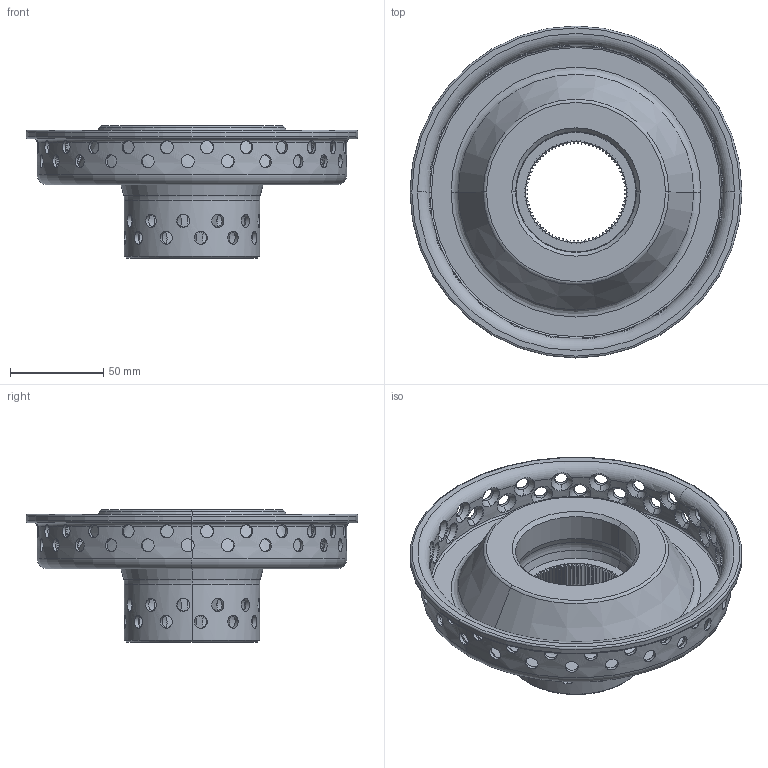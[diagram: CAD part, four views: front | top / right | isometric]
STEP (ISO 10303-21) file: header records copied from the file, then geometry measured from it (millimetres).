
FILE_DESCRIPTION (( 'STEP AP203' ), '1' );
FILE_NAME ('Maserati 3500,5000 5.5j center section splined.STEP', '2025-03-26T10:17:00', ( '' ), ( '' ), 'SwSTEP 2.0', 'SolidWorks 2019', '' );
FILE_SCHEMA (( 'CONFIG_CONTROL_DESIGN' ));
Length unit declared in the file: millimetre
Products named in the file (1): Maserati 3500,5000 5.5j center section splined
Bounding box: 178 x 178 x 71 mm (x, y, z)
Volume: 334461.3 mm3; surface area: 99972.9 mm2
Topology: 1 solids, 1 shells, 907 faces, 2682 edges, 1707 vertices
Faces by surface type: cylinder 393, cone 320, plane 168, torus 26
Entity records: 40307 total; most frequent: CARTESIAN_POINT 17047, ORIENTED_EDGE 5364, DIRECTION 4329, EDGE_CURVE 2682, VERTEX_POINT 1707, AXIS2_PLACEMENT_3D 1694, EDGE_LOOP 983, B_SPLINE_CURVE_WITH_KNOTS 955
